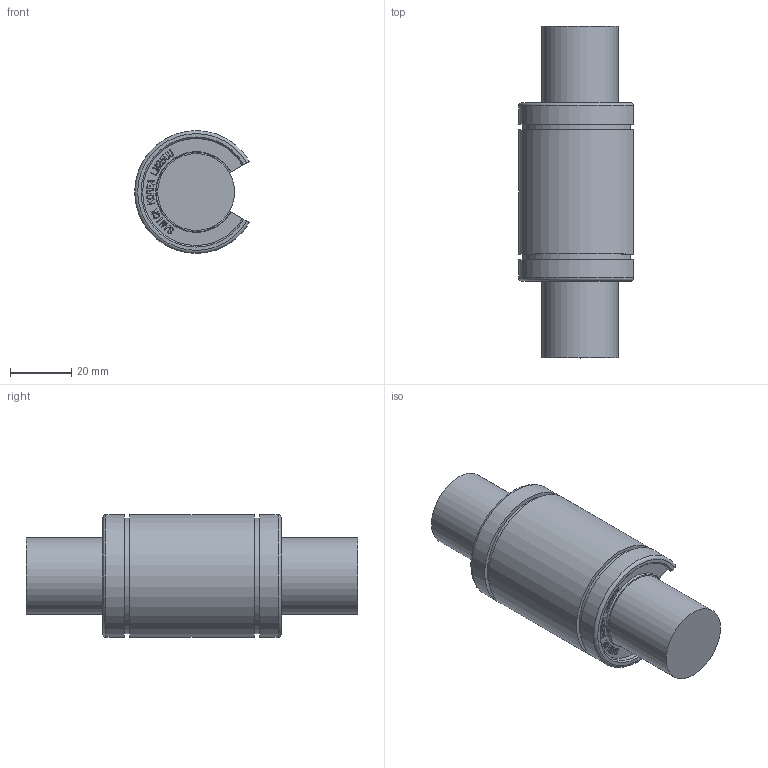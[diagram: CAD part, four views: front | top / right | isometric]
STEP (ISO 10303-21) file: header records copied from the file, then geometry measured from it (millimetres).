
FILE_DESCRIPTION(/* description */ (''),/* implementation_level */ '2;1');
FILE_NAME(/* name */ 'W:\(01) 2024년 홈페이지 CAD파일 최신화\LME_OP\IPT\LME25UUOP.stp',/* time_stamp */ '2025-01-25T10:18:43+09:00',/* author */ ('서우현'),/* organization */ (''),/* preprocessor_version */ 'ST-DEVELOPER v17.2',/* originating_system */ 'Autodesk Inventor 2019',/* authorisation */ '');
FILE_SCHEMA (('AUTOMOTIVE_DESIGN { 1 0 10303 214 3 1 1 }'));
Length unit declared in the file: millimetre
Products named in the file (1): LM5
Bounding box: 37.32 x 108 x 40 mm (x, y, z)
Volume: 87940.5 mm3; surface area: 14852.7 mm2
Topology: 1 solids, 1 shells, 860 faces, 2448 edges, 1632 vertices
Faces by surface type: bspline 612, plane 234, cylinder 8, cone 4, torus 2
Full cylindrical faces by diameter (mm): 25 x1
Entity records: 29502 total; most frequent: CARTESIAN_POINT 10449, ORIENTED_EDGE 4896, EDGE_CURVE 2448, DIRECTION 1754, VERTEX_POINT 1632, B_SPLINE_CURVE_WITH_KNOTS 1224, LINE 1192, VECTOR 1192
